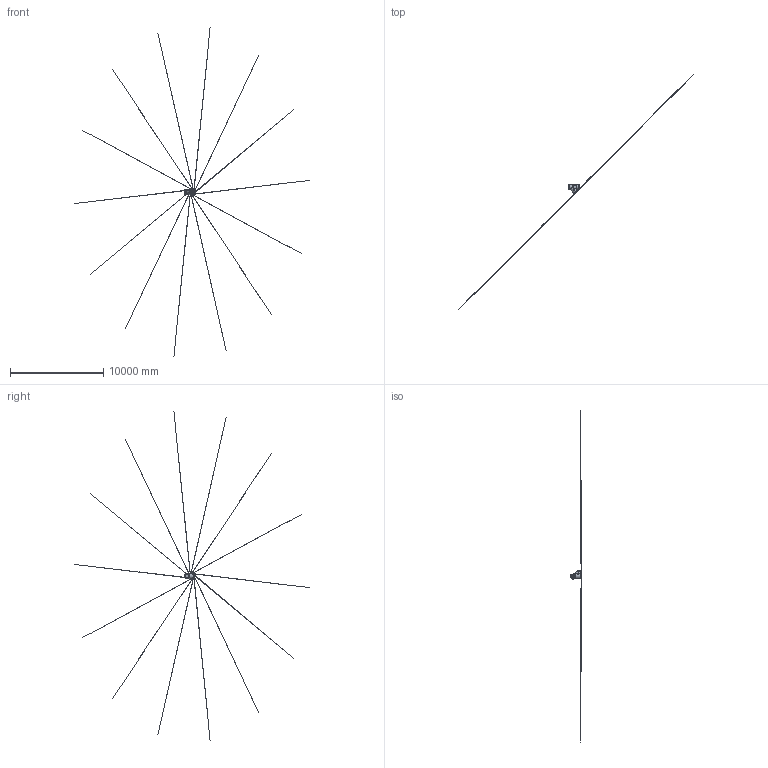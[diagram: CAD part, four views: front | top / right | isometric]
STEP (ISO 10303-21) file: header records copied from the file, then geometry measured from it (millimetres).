
FILE_DESCRIPTION(('STEP AP203'), '1');
FILE_NAME('3D_600_601-400-16_1,6_2', '', ('UNSPECIFIED'), ('UNSPECIFIED'), 'C3D Converter', 'C3D Toolkit', '');
FILE_SCHEMA(('CONFIG_CONTROL_DESIGN'));
Length unit declared in the file: millimetre
Assembly tree (15 placements, depth 3):
  (unnamed)
    (unnamed)
      (unnamed)  x2
      (unnamed)
      (unnamed)
      (unnamed)  x2
      (unnamed)  x3
      (unnamed)  x5
Bounding box: 25122.58 x 25122.58 x 35191.05 mm (x, y, z)
Volume: 287160895.8 mm3; surface area: 3987947.6 mm2
Topology: 6 solids, 48 shells, 1129 faces, 3203 edges, 2147 vertices
Faces by surface type: plane 987, cylinder 78, cone 58, torus 6
Full cylindrical faces by diameter (mm): 15 x14, 20 x14, 30 x1, 31 x32, 68 x1, 70 x1, 400 x2, 545 x1, 555 x1, 580 x2
Entity records: 45321 total; most frequent: CARTESIAN_POINT 12814, ORIENTED_EDGE 5546, DIRECTION 4126, EDGE_CURVE 2791, VERTEX_POINT 1920, LINE 1700, VECTOR 1700, AXIS2_PLACEMENT_3D 1213
